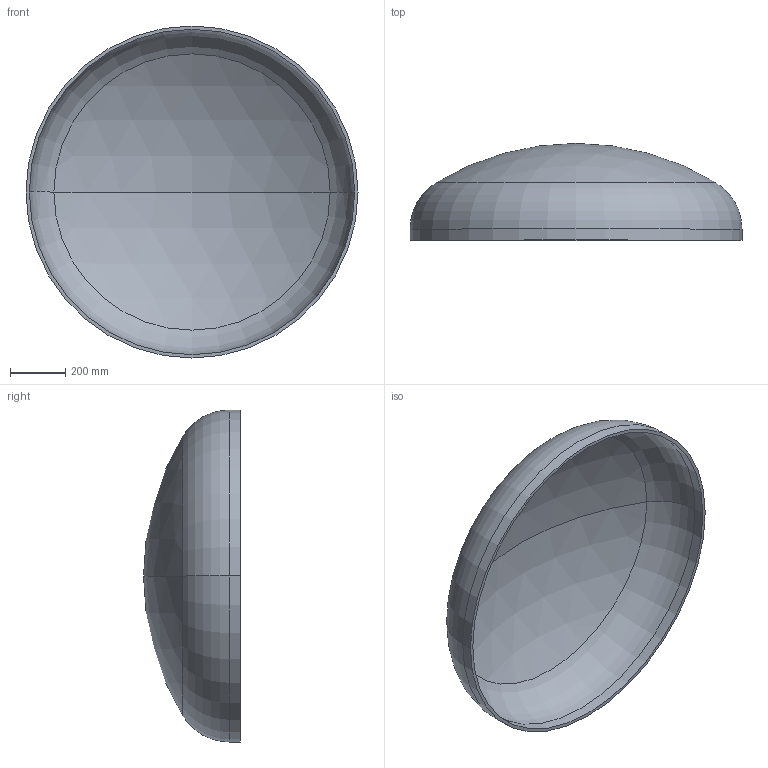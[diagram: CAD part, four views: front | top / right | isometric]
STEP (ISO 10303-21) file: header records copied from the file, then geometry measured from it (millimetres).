
FILE_DESCRIPTION (( 'STEP AP203' ), '1' );
FILE_NAME ('DIN 28013 Korbbogenform_-_Boden DIN 28013 - 1200 x 40 - I - s=12.step', '2016-07-01T09:21:09', ( '' ), ( '' ), 'SwSTEP 2.0', 'SolidWorks 2013', '' );
FILE_SCHEMA (( 'CONFIG_CONTROL_DESIGN' ));
Length unit declared in the file: millimetre
Products named in the file (1): DIN 28013 Korbbogenform_-_Boden DIN 28013 - 1200 x 40 - I - s=12
Bounding box: 1200 x 350.02 x 1200 mm (x, y, z)
Volume: 20345041 mm3; surface area: 3435927.1 mm2
Topology: 1 solids, 1 shells, 13 faces, 24 edges, 14 vertices
Faces by surface type: torus 4, cylinder 4, sphere 4, plane 1
Entity records: 407 total; most frequent: DIRECTION 72, CARTESIAN_POINT 52, ORIENTED_EDGE 48, AXIS2_PLACEMENT_3D 34, EDGE_CURVE 24, CIRCLE 20, VERTEX_POINT 14, EDGE_LOOP 14
